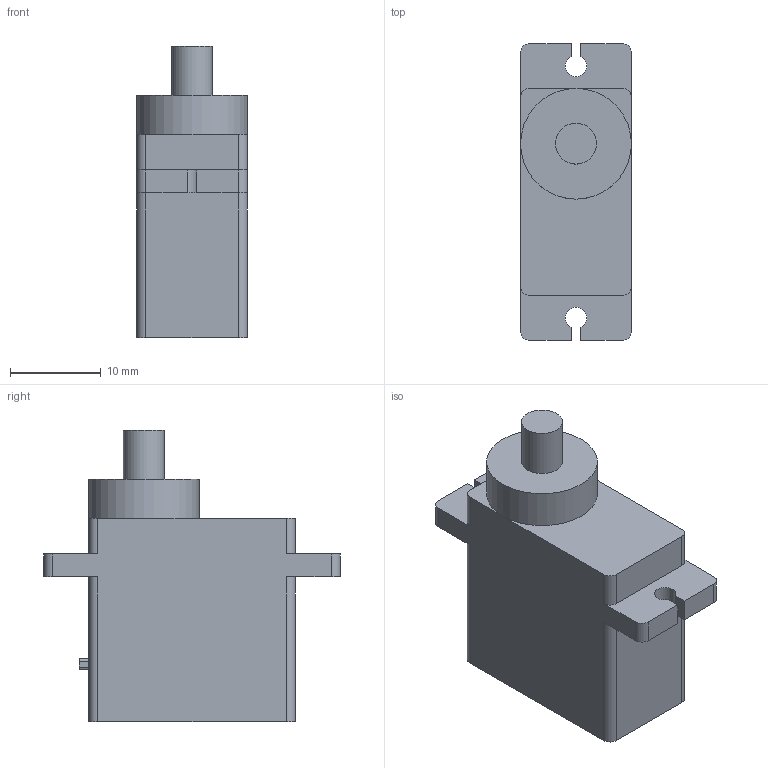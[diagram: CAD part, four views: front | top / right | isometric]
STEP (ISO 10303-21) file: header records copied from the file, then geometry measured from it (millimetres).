
FILE_DESCRIPTION(/* description */ ('STEP AP242 Edition 2','CAx-IF Rec.Pracs.---Representation and Presentation of Product Manufacturing Information (PMI)---4.0---2014-10-13','CAx-IF Rec.Pracs.---3D Tessellated Geometry---0.4---2014-09-14','2;1','CAx-IF Rec.Pracs.---User Defined Attributes---1.5---2016-08-15'),/* implementation_level */ '2;1');
FILE_NAME(/* name */ 'Final Build - SERVO',/* time_stamp */ '2026-08-31T23:26:27Z',/* author */ (''),/* organization */ (''),/* preprocessor_version */ 'ST-DEVELOPER v20',/* originating_system */ 'ONSHAPE BY PTC INC, 1.220',/* authorisation */ ' ');
FILE_SCHEMA (('AP242_MANAGED_MODEL_BASED_3D_ENGINEERING_MIM_LF { 1 0 10303 442 3 1 4 }'));
Length unit declared in the file: metre
Products named in the file (1): SERVO
Bounding box: 12.2 x 32.7 x 32.1 mm (x, y, z)
Volume: 7081.7 mm3; surface area: 2645.6 mm2
Topology: 1 solids, 1 shells, 49 faces, 132 edges, 87 vertices
Faces by surface type: plane 29, cylinder 20
Full cylindrical faces by diameter (mm): 4.5 x1, 12.2 x1
Entity records: 1547 total; most frequent: DIRECTION 271, CARTESIAN_POINT 265, ORIENTED_EDGE 258, EDGE_CURVE 129, AXIS2_PLACEMENT_3D 92, LINE 87, VECTOR 87, VERTEX_POINT 86
